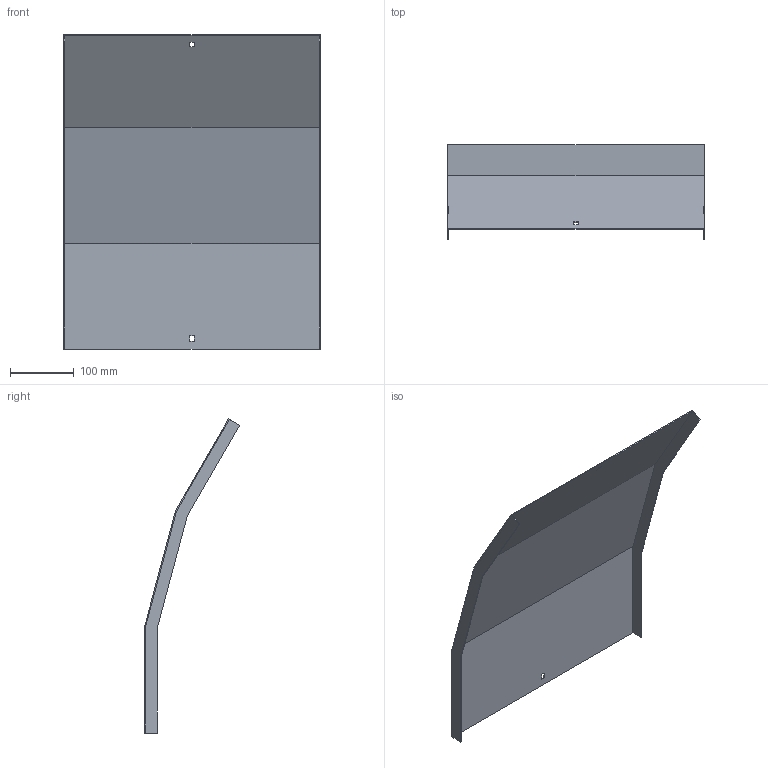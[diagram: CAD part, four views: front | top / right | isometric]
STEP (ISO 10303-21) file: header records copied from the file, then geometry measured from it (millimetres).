
FILE_DESCRIPTION (( 'STEP AP214' ), '1' );
FILE_NAME ('A2_35N3J400.step', '2025-02-21T10:31:20', ( '' ), ( '' ), 'SwSTEP 2.0', 'SolidWorks 2023', '' );
FILE_SCHEMA (( 'AUTOMOTIVE_DESIGN' ));
Length unit declared in the file: millimetre
Products named in the file (1): A2_35N3J400
Bounding box: 403 x 149.62 x 493.76 mm (x, y, z)
Volume: 344142.8 mm3; surface area: 461807.3 mm2
Topology: 1 solids, 1 shells, 26 faces, 72 edges, 48 vertices
Faces by surface type: plane 26
Entity records: 847 total; most frequent: CARTESIAN_POINT 147, ORIENTED_EDGE 144, DIRECTION 126, LINE 72, VECTOR 72, EDGE_CURVE 72, VERTEX_POINT 48, EDGE_LOOP 30
